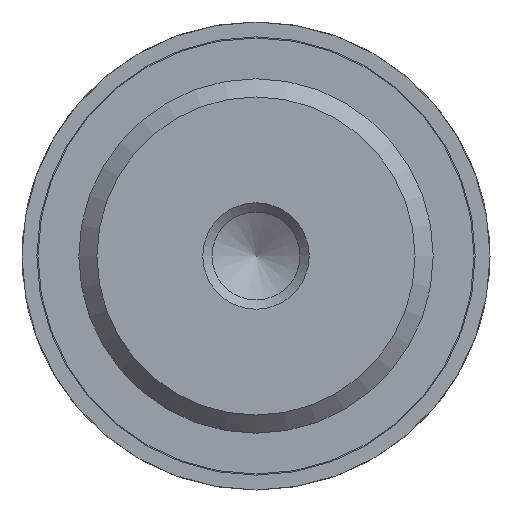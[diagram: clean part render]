
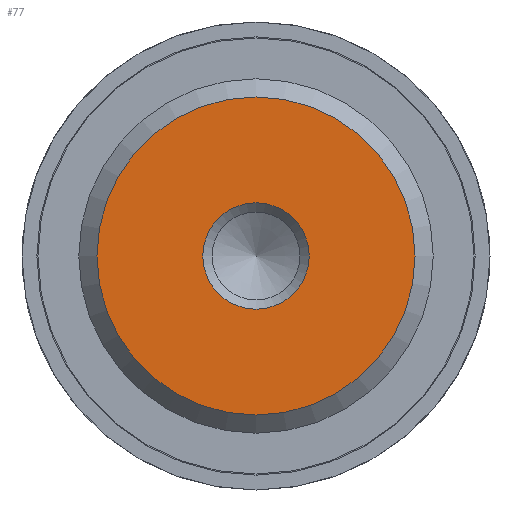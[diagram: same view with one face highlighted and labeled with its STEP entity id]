
A CAD part, front view. The second image highlights one B-rep face of the part: STEP entity #77.
In plain terms, the highlighted planar face has unit normal (0, -1, 0).
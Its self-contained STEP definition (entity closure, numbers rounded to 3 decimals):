
#77 = ADVANCED_FACE( '', ( #111, #112 ), #113, .F. );
#111 = FACE_BOUND( '', #190, .T. );
#112 = FACE_OUTER_BOUND( '', #191, .T. );
#113 = PLANE( '', #192 );
#190 = EDGE_LOOP( '', ( #273 ) );
#191 = EDGE_LOOP( '', ( #274 ) );
#192 = AXIS2_PLACEMENT_3D( '', #275, #276, #277 );
#273 = ORIENTED_EDGE( '', *, *, #441, .F. );
#274 = ORIENTED_EDGE( '', *, *, #442, .T. );
#275 = CARTESIAN_POINT( '', ( 7.475, 0., 0. ) );
#276 = DIRECTION( '', ( 0., 1., 0. ) );
#277 = DIRECTION( '', ( 0., 0., 1. ) );
#441 = EDGE_CURVE( '', #487, #487, #488, .T. );
#442 = EDGE_CURVE( '', #489, #489, #490, .T. );
#487 = VERTEX_POINT( '', #565 );
#488 = CIRCLE( '', #566, 2.5 );
#489 = VERTEX_POINT( '', #567 );
#490 = CIRCLE( '', #568, 7.475 );
#565 = CARTESIAN_POINT( '', ( 2.5, 0., 0. ) );
#566 = AXIS2_PLACEMENT_3D( '', #761, #762, #763 );
#567 = CARTESIAN_POINT( '', ( 0., 0., -7.475 ) );
#568 = AXIS2_PLACEMENT_3D( '', #764, #765, #766 );
#761 = CARTESIAN_POINT( '', ( 0., 0., 0. ) );
#762 = DIRECTION( '', ( 0., -1., 0. ) );
#763 = DIRECTION( '', ( 1., 0., 0. ) );
#764 = CARTESIAN_POINT( '', ( 0., 0., 0. ) );
#765 = DIRECTION( '', ( 0., -1., 0. ) );
#766 = DIRECTION( '', ( 0., 0., -1. ) );
